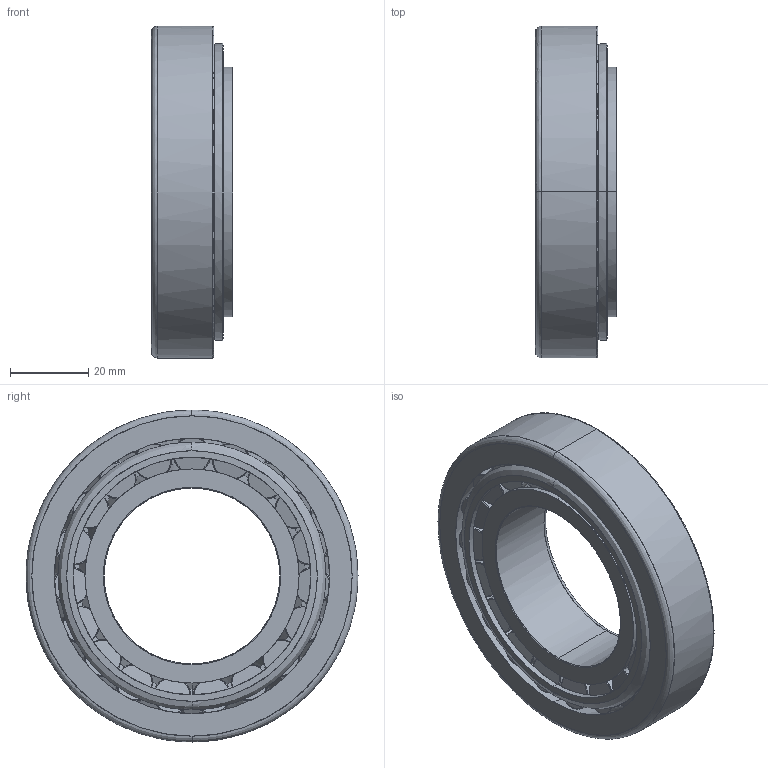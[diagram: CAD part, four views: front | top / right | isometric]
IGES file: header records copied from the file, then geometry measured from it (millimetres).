
Start section: ACIS data in IGES format
Global section: file name: Unknown; native system: ACIS; preprocessor: *IGES writer V5.2; author: unknown author; organization: unknown organization; date: 20051112.140921; units: millimetre
Bounding box: 20.75 x 85 x 85 mm (x, y, z)
Surface area: 40666 mm2 (no closed solid volume)
Topology: 0 solids, 0 shells, 217 faces, 1276 edges, 1276 vertices
Faces by surface type: bspline 217
